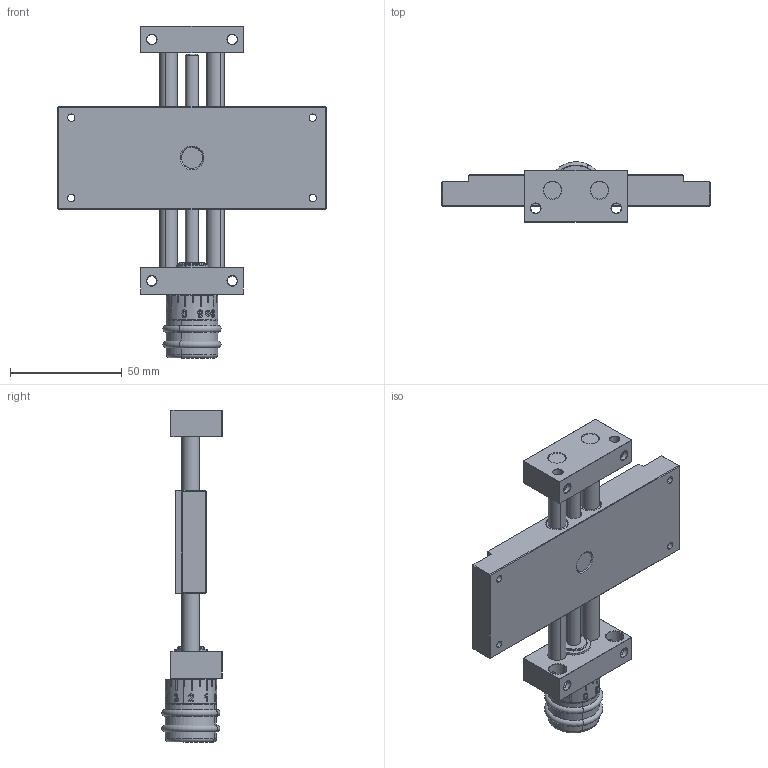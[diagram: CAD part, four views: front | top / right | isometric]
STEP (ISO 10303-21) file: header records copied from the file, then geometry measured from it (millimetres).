
FILE_DESCRIPTION (( 'STEP AP203' ), '1' );
FILE_NAME ('KT4808-L-SK-Kreuztisch.STEP', '2016-01-15T17:06:53', ( '' ), ( '' ), 'SwSTEP 2.0', 'SolidWorks 2014', '' );
FILE_SCHEMA (( 'CONFIG_CONTROL_DESIGN' ));
Length unit declared in the file: millimetre
Products named in the file (3): KT08-000-03-L-Schlitten-komplett; KT4808-L-SK-Kreuztisch; PT4808-000-01-Festteil-SK_n_Standard
Assembly tree (2 placements, depth 2):
  KT4808-L-SK-Kreuztisch
    PT4808-000-01-Festteil-SK_n_Standard
    KT08-000-03-L-Schlitten-komplett
Bounding box: 120 x 26.98 x 148.49 mm (x, y, z)
Volume: 111006.2 mm3; surface area: 41243.4 mm2
Topology: 2 solids, 5 shells, 668 faces, 1651 edges, 1044 vertices
Faces by surface type: plane 260, cylinder 159, cone 125, bspline 102, torus 20, sphere 2
Entity records: 34968 total; most frequent: CARTESIAN_POINT 19415, ORIENTED_EDGE 3290, DIRECTION 2940, EDGE_CURVE 1645, AXIS2_PLACEMENT_3D 1138, VERTEX_POINT 1044, EDGE_LOOP 775, ADVANCED_FACE 668
